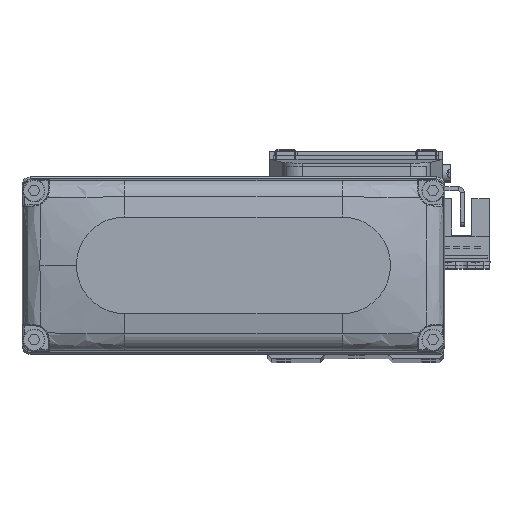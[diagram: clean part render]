
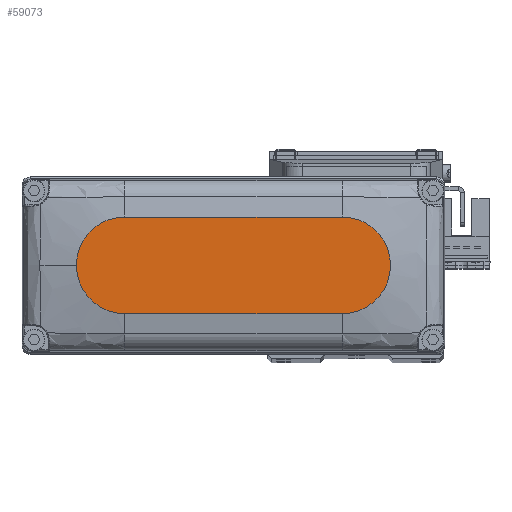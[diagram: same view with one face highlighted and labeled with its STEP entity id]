
A CAD part, top view. The second image highlights one B-rep face of the part: STEP entity #59073.
In plain terms, the highlighted planar face has unit normal (0, 0, 1).
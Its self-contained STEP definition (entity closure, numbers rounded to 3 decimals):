
#1777 = DIRECTION ( 'NONE',  ( 0., 0., 1. ) ) ;
#3496 = EDGE_LOOP ( 'NONE', ( #52408, #7205, #67890, #46953, #17055 ) ) ;
#6320 = CARTESIAN_POINT ( 'NONE',  ( 27., 0., 25. ) ) ;
#7066 = AXIS2_PLACEMENT_3D ( 'NONE', #6320, #24522, #48654 ) ;
#7205 = ORIENTED_EDGE ( 'NONE', *, *, #10640, .T. ) ;
#7642 = CARTESIAN_POINT ( 'NONE',  ( -27., 12., 25. ) ) ;
#7719 = FACE_OUTER_BOUND ( 'NONE', #3496, .T. ) ;
#7924 = EDGE_CURVE ( 'NONE', #25063, #53962, #61810, .T. ) ;
#10640 = EDGE_CURVE ( 'NONE', #53962, #47554, #25673, .T. ) ;
#11063 = CARTESIAN_POINT ( 'NONE',  ( 27., 12., 25. ) ) ;
#11474 = CARTESIAN_POINT ( 'NONE',  ( -27., -12., 25. ) ) ;
#17055 = ORIENTED_EDGE ( 'NONE', *, *, #41603, .T. ) ;
#22593 = CARTESIAN_POINT ( 'NONE',  ( 27., 0., 25. ) ) ;
#22974 = DIRECTION ( 'NONE',  ( 1., 0., 0. ) ) ;
#24522 = DIRECTION ( 'NONE',  ( 0., 0., 1. ) ) ;
#25063 = VERTEX_POINT ( 'NONE', #11063 ) ;
#25673 = CIRCLE ( 'NONE', #69851, 12. ) ;
#25928 = DIRECTION ( 'NONE',  ( 1., 0., 0. ) ) ;
#26198 = AXIS2_PLACEMENT_3D ( 'NONE', #55966, #1777, #25928 ) ;
#26354 = CARTESIAN_POINT ( 'NONE',  ( -27., 0., 25. ) ) ;
#27472 = CARTESIAN_POINT ( 'NONE',  ( 39., 0., 25. ) ) ;
#31780 = DIRECTION ( 'NONE',  ( -1., 0., 0. ) ) ;
#31859 = PLANE ( 'NONE',  #26198 ) ;
#32316 = CIRCLE ( 'NONE', #76498, 12. ) ;
#37363 = EDGE_CURVE ( 'NONE', #69804, #78176, #41160, .T. ) ;
#41160 = CIRCLE ( 'NONE', #7066, 12. ) ;
#41603 = EDGE_CURVE ( 'NONE', #78176, #25063, #32316, .T. ) ;
#42836 = CARTESIAN_POINT ( 'NONE',  ( -27., 12., 25. ) ) ;
#44308 = CARTESIAN_POINT ( 'NONE',  ( 27., -12., 25. ) ) ;
#46707 = DIRECTION ( 'NONE',  ( 0., 0., 1. ) ) ;
#46953 = ORIENTED_EDGE ( 'NONE', *, *, #37363, .T. ) ;
#47554 = VERTEX_POINT ( 'NONE', #11474 ) ;
#48654 = DIRECTION ( 'NONE',  ( 1., 0., 0. ) ) ;
#50474 = DIRECTION ( 'NONE',  ( 0., 0., 1. ) ) ;
#51117 = VECTOR ( 'NONE', #22974, 1000. ) ;
#52408 = ORIENTED_EDGE ( 'NONE', *, *, #7924, .T. ) ;
#52929 = EDGE_CURVE ( 'NONE', #47554, #69804, #53034, .T. ) ;
#53034 = LINE ( 'NONE', #77124, #51117 ) ;
#53962 = VERTEX_POINT ( 'NONE', #42836 ) ;
#55966 = CARTESIAN_POINT ( 'NONE',  ( 0., 0., 25. ) ) ;
#59073 = ADVANCED_FACE ( 'NONE', ( #7719 ), #31859, .T. ) ;
#61810 = LINE ( 'NONE', #7642, #73338 ) ;
#67890 = ORIENTED_EDGE ( 'NONE', *, *, #52929, .T. ) ;
#69804 = VERTEX_POINT ( 'NONE', #44308 ) ;
#69851 = AXIS2_PLACEMENT_3D ( 'NONE', #26354, #50474, #74573 ) ;
#70800 = DIRECTION ( 'NONE',  ( 1., 0., 0. ) ) ;
#73338 = VECTOR ( 'NONE', #31780, 1000. ) ;
#74573 = DIRECTION ( 'NONE',  ( 1., 0., 0. ) ) ;
#76498 = AXIS2_PLACEMENT_3D ( 'NONE', #22593, #46707, #70800 ) ;
#77124 = CARTESIAN_POINT ( 'NONE',  ( -27., -12., 25. ) ) ;
#78176 = VERTEX_POINT ( 'NONE', #27472 ) ;
